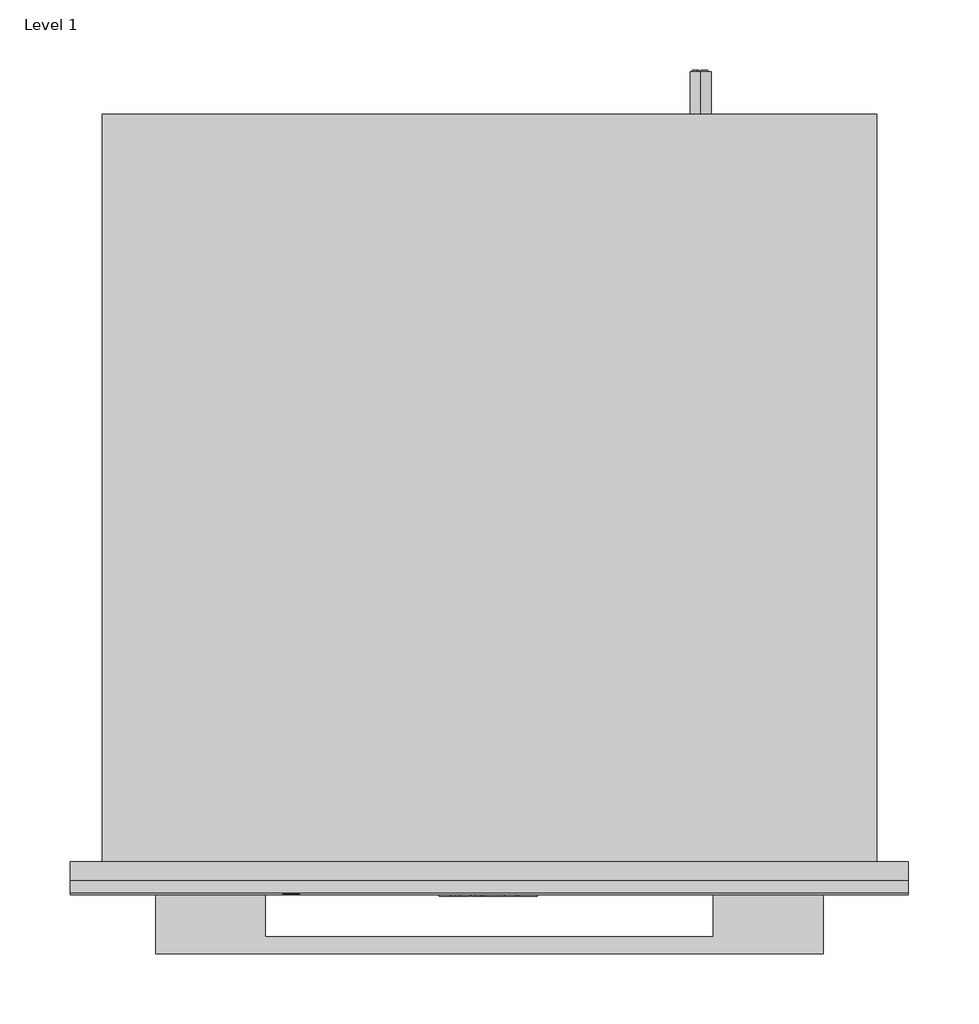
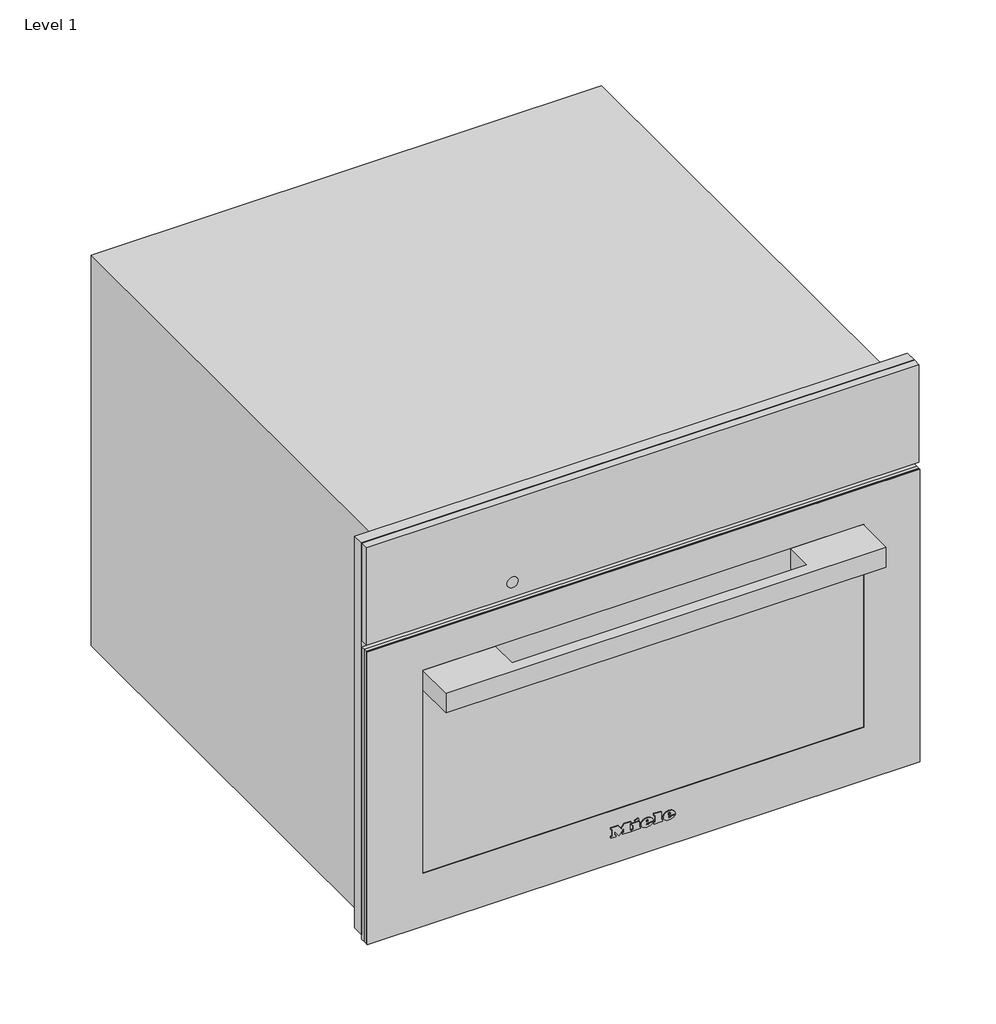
# One storey: 1 proxy.
"""IFC4 building model written with IfcOpenShell, lengths in millimetres."""

import ifcopenshell
import ifcopenshell.guid

model = None  # the IFC model being written
_history = None  # IfcOwnerHistory: only IFC2X3 demands one
_inside = {}  # id of a spatial element -> (the spatial element, [elements in it])
_under = {}  # id of a project, library or spatial element -> (it, [spatial elements below it])
_declared = {}  # id of a project -> (the project, [libraries it declares])
_typed = {}  # id of a type object -> (the type object, [elements of that type])
_made_of = {}  # id of a material, layer set ... -> (it, [elements and type objects made of it])


def new_model(schema):
    """Start an empty IFC model of exactly this schema.

    Asked for "IFC4X3", IfcOpenShell would pick the latest addendum, in which some entities
    have other attributes; the version numbers below select the first issue.
    IFC2X3 requires an IfcOwnerHistory on every rooted entity: one is made here for all.
    """
    global model, _history
    if schema == "IFC4X3":
        model = ifcopenshell.file(schema_version=(4, 3, 0, 0))
    else:
        model = ifcopenshell.file(schema=schema)
    _inside.clear()
    _under.clear()
    _declared.clear()
    _typed.clear()
    _made_of.clear()
    _history = None
    if model.schema == "IFC2X3":
        org = make("IfcOrganization", Name="unknown")
        user = make(
            "IfcPersonAndOrganization",
            ThePerson=make("IfcPerson", FamilyName="unknown"),
            TheOrganization=org,
        )
        app = make(
            "IfcApplication",
            ApplicationDeveloper=org,
            Version="unknown",
            ApplicationFullName="unknown",
            ApplicationIdentifier="unknown",
        )
        _history = make(
            "IfcOwnerHistory",
            OwningUser=user,
            OwningApplication=app,
            ChangeAction="ADDED",
            CreationDate=0,
        )
    return model


def make(cls, **values):
    """One entity of the class cls with the attributes given. An attribute that is None is left unset."""
    return model.create_entity(
        cls, **{name: value for name, value in values.items() if value is not None}
    )


def rooted(cls, **values):
    """An entity with a GlobalId (a new one), such as an element, a storey or a relation."""
    return make(cls, GlobalId=ifcopenshell.guid.new(), OwnerHistory=_history, **values)


def si_unit(unit_type, name, prefix=None):
    """IfcSIUnit, for example si_unit("LENGTHUNIT", "METRE", prefix="MILLI")."""
    return make("IfcSIUnit", UnitType=unit_type, Prefix=prefix, Name=name)


def assignment(units):
    """IfcUnitAssignment: the units of a project."""
    return None if units is None else make("IfcUnitAssignment", Units=units)


def point(xyz):
    """IfcCartesianPoint."""
    return None if xyz is None else make("IfcCartesianPoint", Coordinates=xyz)


def direction(xyz):
    """IfcDirection."""
    return None if xyz is None else make("IfcDirection", DirectionRatios=xyz)


def frame(location, z_axis=None, x_axis=None):
    """IfcAxis2Placement3D, a coordinate frame: its origin and axes. An axis left out is left unset."""
    return make(
        "IfcAxis2Placement3D",
        Location=point(location),
        Axis=direction(z_axis),
        RefDirection=direction(x_axis),
    )


def frame_2d(location, x_axis=None):
    """IfcAxis2Placement2D, a coordinate frame in the plane: its origin and x axis."""
    return make(
        "IfcAxis2Placement2D", Location=point(location), RefDirection=direction(x_axis)
    )


def origin():
    """The frame at (0, 0, 0) with its axes left unset."""
    return frame((0.0, 0.0, 0.0))


def place(relative_to, where):
    """IfcLocalPlacement: puts the frame where relative to a parent placement (None: the world)."""
    return make(
        "IfcLocalPlacement", PlacementRelTo=relative_to, RelativePlacement=where
    )


def context(
    kind, dimensions, precision=None, world=None, true_north=None, identifier=None
):
    """IfcGeometricRepresentationContext, for example the 3D "Model" context."""
    return make(
        "IfcGeometricRepresentationContext",
        ContextIdentifier=identifier,
        ContextType=kind,
        CoordinateSpaceDimension=dimensions,
        Precision=precision,
        WorldCoordinateSystem=world,
        TrueNorth=true_north,
    )


def project(units=None, contexts=None):
    """IfcProject with its units and contexts."""
    return rooted(
        "IfcProject",
        Name="project",
        RepresentationContexts=contexts,
        UnitsInContext=assignment(units),
    )


def spatial(cls, under=None, at=None, **own):
    """A site, building, storey or space (cls), placed at a placement, below another one or the project."""
    s = rooted(cls, ObjectPlacement=at, **own)
    if under is not None:
        _under.setdefault(under.id(), (under, []))[1].append(s)
    return s


def polyline(points):
    """IfcPolyline through the points."""
    return make("IfcPolyline", Points=[point(p) for p in points])


def circle_curve(where, radius):
    """IfcCircle in the frame where."""
    return make("IfcCircle", Position=where, Radius=radius)


def ellipse_curve(where, semi_axis1, semi_axis2):
    """IfcEllipse in the frame where."""
    return make(
        "IfcEllipse", Position=where, SemiAxis1=semi_axis1, SemiAxis2=semi_axis2
    )


def trimmed(basis, trim1, trim2, sense, master):
    """IfcTrimmedCurve: the piece of a basis curve between two trims."""
    return make(
        "IfcTrimmedCurve",
        BasisCurve=basis,
        Trim1=trim1,
        Trim2=trim2,
        SenseAgreement=sense,
        MasterRepresentation=master,
    )


def segment(curve, same_sense, transition):
    """IfcCompositeCurveSegment."""
    return make(
        "IfcCompositeCurveSegment",
        Transition=transition,
        SameSense=same_sense,
        ParentCurve=curve,
    )


def composite_curve(segments, self_intersect=None):
    """IfcCompositeCurve: segments joined end to end."""
    return make("IfcCompositeCurve", Segments=segments, SelfIntersect=self_intersect)


def outline(outer, holes=None, kind="AREA"):
    """IfcArbitraryClosedProfileDef: a profile drawn as a closed curve; with holes, ...WithVoids."""
    if holes is None:
        return make("IfcArbitraryClosedProfileDef", ProfileType=kind, OuterCurve=outer)
    return make(
        "IfcArbitraryProfileDefWithVoids",
        ProfileType=kind,
        OuterCurve=outer,
        InnerCurves=holes,
    )


def extrude(swept, where, along, depth):
    """IfcExtrudedAreaSolid: the profile swept, set in the frame where, extruded along a direction by depth."""
    return make(
        "IfcExtrudedAreaSolid",
        SweptArea=swept,
        Position=where,
        ExtrudedDirection=direction(along),
        Depth=depth,
    )


def faces_of(points, faces, orient=None, outer=None):
    """IfcFace entities. A face is a list of loops; a loop is a list of indices into points, from 0.

    orient and outer hold one flag for each loop. By default every Orientation is true, the
    first loop of a face is its IfcFaceOuterBound and the others are IfcFaceBound.
    """
    made = []
    for i, loops in enumerate(faces):
        bounds = []
        for j, loop in enumerate(loops):
            is_outer = j == 0 if outer is None else outer[i][j]
            bounds.append(
                make(
                    "IfcFaceOuterBound" if is_outer else "IfcFaceBound",
                    Bound=make("IfcPolyLoop", Polygon=[points[k] for k in loop]),
                    Orientation=True if orient is None else orient[i][j],
                )
            )
        made.append(make("IfcFace", Bounds=bounds))
    return made


def faceted_brep(points, faces, orient=None, outer=None, voids=None):
    """IfcFacetedBrep: a solid bounded by flat faces; with voids (closed shells), ...WithVoids."""
    shared = [point(p) for p in points]
    hull = make("IfcClosedShell", CfsFaces=faces_of(shared, faces, orient, outer))
    if voids is None:
        return make("IfcFacetedBrep", Outer=hull)
    return make(
        "IfcFacetedBrepWithVoids",
        Outer=hull,
        Voids=[
            make(cls, CfsFaces=faces_of(shared, fs, o, b)) for cls, fs, o, b in voids
        ],
    )


def shape(context_of_items, identifier, shape_type, items):
    """IfcShapeRepresentation: the items that make up one representation, for example the "Body"."""
    return make(
        "IfcShapeRepresentation",
        ContextOfItems=context_of_items,
        RepresentationIdentifier=identifier,
        RepresentationType=shape_type,
        Items=items,
    )


def source(mapping_origin, context_of_items, identifier, shape_type, items):
    """IfcRepresentationMap: a shape defined once, which mapped items show again and again."""
    return make(
        "IfcRepresentationMap",
        MappingOrigin=mapping_origin,
        MappedRepresentation=shape(context_of_items, identifier, shape_type, items),
    )


def transform(
    local_origin,
    x_axis=None,
    y_axis=None,
    z_axis=None,
    scale=None,
    scale2=None,
    scale3=None,
    uniform=True,
):
    """IfcCartesianTransformationOperator3D, or its non-uniform kind. x_axis, y_axis, z_axis: its Axis1, 2, 3."""
    if uniform:
        return make(
            "IfcCartesianTransformationOperator3D",
            Axis1=direction(x_axis),
            Axis2=direction(y_axis),
            LocalOrigin=point(local_origin),
            Scale=scale,
            Axis3=direction(z_axis),
        )
    return make(
        "IfcCartesianTransformationOperator3DnonUniform",
        Axis1=direction(x_axis),
        Axis2=direction(y_axis),
        LocalOrigin=point(local_origin),
        Scale=scale,
        Axis3=direction(z_axis),
        Scale2=scale2,
        Scale3=scale3,
    )


def mapped(mapping_source, mapping_target):
    """IfcMappedItem: shows the shape of a source again, moved by a transform."""
    return make(
        "IfcMappedItem", MappingSource=mapping_source, MappingTarget=mapping_target
    )


def made_of(thing, what):
    """Note that an element or type object is made of a material, layer set ...; save() writes the relation."""
    if what is not None:
        _made_of.setdefault(what.id(), (what, []))[1].append(thing)
    return thing


def element(
    cls,
    number,
    at=None,
    inside=None,
    cuts=None,
    type_object=None,
    material=None,
    context=None,
    identifier="Body",
    shape_type=None,
    held_by="IfcProductDefinitionShape",
    body=None,
    shapes=None,
    **own,
):
    """One element of the class cls, such as IfcWall. Its Tag is "e" and its number.

    at: its placement. inside: the storey or other place that contains it. cuts: it is an
    opening in that element (IfcRelVoidsElement). A single representation is given by context,
    identifier, shape_type and body (its items); several are given by shapes. held_by: the class
    of the entity that holds the representations. save() writes the other relations.
    """
    e = rooted(cls, Tag="e%d" % number, ObjectPlacement=at, **own)
    if body is not None:
        shapes = [shape(context, identifier, shape_type, body)]
    if shapes is not None:
        e.Representation = make(held_by, Representations=shapes)
    if inside is not None:
        _inside.setdefault(inside.id(), (inside, []))[1].append(e)
    if cuts is not None:
        rooted(
            "IfcRelVoidsElement", RelatingBuildingElement=cuts, RelatedOpeningElement=e
        )
    if type_object is not None:
        _typed.setdefault(type_object.id(), (type_object, []))[1].append(e)
    return made_of(e, material)


def aggregate(whole, parts):
    """IfcRelAggregates: a whole, such as a stair, and the parts it consists of."""
    return rooted("IfcRelAggregates", RelatingObject=whole, RelatedObjects=parts)


def save(model, path):
    """Write the relations noted so far, then the file.

    IfcRelAggregates (storeys below a building ...), IfcRelContainedInSpatialStructure (elements
    in a storey), IfcRelDefinesByType, IfcRelAssociatesMaterial and IfcRelDeclares: one each for
    every whole, place, type object, material and project.
    """
    for whole, parts in _under.values():
        aggregate(whole, parts)
    for where, things in _inside.values():
        rooted(
            "IfcRelContainedInSpatialStructure",
            RelatedElements=things,
            RelatingStructure=where,
        )
    for kind, things in _typed.values():
        rooted("IfcRelDefinesByType", RelatedObjects=things, RelatingType=kind)
    for what, things in _made_of.values():
        rooted("IfcRelAssociatesMaterial", RelatedObjects=things, RelatingMaterial=what)
    for by, libraries in _declared.values():
        rooted("IfcRelDeclares", RelatingContext=by, RelatedDefinitions=libraries)
    model.write(path)


def plane_surface(at):
    """IfcPlane: the flat surface through the origin of the frame at, square to its z axis."""
    return make("IfcPlane", Position=at)


def cylinder_surface(at, radius):
    """IfcCylindricalSurface: all points at the distance radius from the z axis of the frame at."""
    return make("IfcCylindricalSurface", Position=at, Radius=radius)


def revolved_surface(curve, axis_point, axis_direction):
    """IfcSurfaceOfRevolution: the curve turned about the line through axis_point along axis_direction."""
    return make(
        "IfcSurfaceOfRevolution",
        SweptCurve=make("IfcArbitraryOpenProfileDef", ProfileType="CURVE", Curve=curve),
        AxisPosition=make("IfcAxis1Placement", Location=point(axis_point), Axis=direction(axis_direction)),
    )


def extruded_surface(curve, direction_of_extrusion, depth):
    """IfcSurfaceOfLinearExtrusion: the curve pushed along a direction by depth."""
    return make(
        "IfcSurfaceOfLinearExtrusion",
        SweptCurve=make("IfcArbitraryOpenProfileDef", ProfileType="CURVE", Curve=curve),
        ExtrudedDirection=direction(direction_of_extrusion),
        Depth=depth,
    )


def advanced_brep(points, edges, surfaces, faces):
    """IfcAdvancedBrep: a solid bounded by faces that lie on surfaces and meet in shared edges.

    An edge is (start, end): straight between two places in points (the first is 0);
    or (start, end, curve); or (start, end, curve, False) where it runs against its curve.
    A face is (place in surfaces, loops), or (place, loops, False) where it looks against
    its surface's normal. A loop lists edges by number (the first is 1), with a minus sign
    where the edge is run from its end to its start. The first loop is the outer one.
    """
    corners = [point(p) for p in points]
    vertices = [make("IfcVertexPoint", VertexGeometry=c) for c in corners]
    made = []
    for start, end, *more in edges:
        made.append(
            make(
                "IfcEdgeCurve",
                EdgeStart=vertices[start],
                EdgeEnd=vertices[end],
                EdgeGeometry=more[0] if more else make("IfcPolyline", Points=[corners[start], corners[end]]),
                SameSense=more[1] if len(more) > 1 else True,
            )
        )
    hull = []
    for where, loops, *sense in faces:
        bounds = []
        for j, loop in enumerate(loops):
            ring = [make("IfcOrientedEdge", EdgeElement=made[abs(k) - 1], Orientation=k > 0) for k in loop]
            bounds.append(
                make(
                    "IfcFaceOuterBound" if j == 0 else "IfcFaceBound",
                    Bound=make("IfcEdgeLoop", EdgeList=ring),
                    Orientation=True,
                )
            )
        hull.append(make("IfcAdvancedFace", Bounds=bounds, FaceSurface=surfaces[where], SameSense=sense[0] if sense else True))
    return make("IfcAdvancedBrep", Outer=make("IfcClosedShell", CfsFaces=hull))


def specialty_equipment_3f3d7ecd(model_context):
    return source(origin(), model_context, "Body", "SolidModel", [
        extrude(outline(polyline([(455.0, 297.5), (455.0, -297.5), (9.0, -297.5), (9.0, -272.5), (344.0, -272.5), (344.0, 272.5), (9.0, 272.5), (9.0, 297.5), (455.0, 297.5)])), frame((0.0, -13.0, 0.0), z_axis=(0.0, 1.0, 0.0), x_axis=(0.0, 0.0, 1.0)), (0.0, 0.0, 1.0), 13.0),
        advanced_brep(
        [(150.0, 561.0, 410.5), (150.0, 561.0, 395.5), (144.4098301, 561.0, 398.0), (148.5, 561.0, 398.0), (148.5, 561.0, 408.0), (147.4955303, 561.0, 408.0), (147.4955303, 561.0, 399.0), (144.0315043, 561.0, 399.0), (144.0315043, 561.0, 398.4582978), (155.0, 561.0, 398.0), (155.0, 561.0, 408.0), (150.0, 561.0, 408.0), (150.0, 561.0, 407.0), (154.0, 561.0, 407.0), (154.0, 561.0, 403.5), (151.0, 561.0, 403.5), (151.0, 561.0, 402.5), (154.0, 561.0, 402.5), (154.0, 561.0, 399.0), (150.0, 561.0, 399.0), (150.0, 561.0, 398.0), (150.0, 531.0, 395.5), (150.0, 531.0, 410.5), (155.0, 562.0, 408.0), (155.0, 562.0, 398.0), (150.0, 562.0, 398.0), (150.0, 562.0, 399.0), (154.0, 562.0, 399.0), (154.0, 562.0, 402.5), (151.0, 562.0, 402.5), (151.0, 562.0, 403.5), (154.0, 562.0, 403.5), (154.0, 562.0, 407.0), (150.0, 562.0, 407.0), (150.0, 562.0, 408.0), (148.5, 562.0, 398.0), (144.0315043, 562.0, 398.0), (144.0315043, 562.0, 399.0), (147.4955303, 562.0, 399.0), (147.4955303, 562.0, 408.0), (148.5, 562.0, 408.0), (144.0315043, 561.0, 398.0)],
        [
            (0, 1, circle_curve(frame((150.0, 561.0, 403.0), z_axis=(0.0, 1.0, 0.0), x_axis=(0.0, 0.0, 1.0)), 7.5)),
            (1, 2, circle_curve(frame((150.0, 561.0, 403.0), z_axis=(0.0, 1.0, 0.0), x_axis=(0.0, 0.0, 1.0)), 7.5)),
            (2, 3),
            (3, 4),
            (4, 5),
            (5, 6),
            (6, 7),
            (7, 8),
            (8, 0, circle_curve(frame((150.0, 561.0, 403.0), z_axis=(0.0, 1.0, 0.0), x_axis=(0.0, 0.0, 1.0)), 7.5)),
            (9, 10),
            (10, 11),
            (11, 12),
            (12, 13),
            (13, 14),
            (14, 15),
            (15, 16),
            (16, 17),
            (17, 18),
            (18, 19),
            (19, 20),
            (20, 9),
            (21, 22, circle_curve(frame((150.0, 531.0, 403.0), z_axis=(0.0, -1.0, 0.0), x_axis=(0.0, 0.0, 1.0)), 7.5)),
            (22, 21, circle_curve(frame((150.0, 531.0, 403.0), z_axis=(0.0, -1.0, 0.0), x_axis=(0.0, 0.0, 1.0)), 7.5)),
            (0, 22),
            (21, 1),
            (8, 2, circle_curve(frame((150.0, 561.0, 403.0), z_axis=(0.0, -1.0, 0.0), x_axis=(0.0, 0.0, 1.0)), 7.5)),
            (23, 24),
            (24, 25),
            (25, 26),
            (26, 27),
            (27, 28),
            (28, 29),
            (29, 30),
            (30, 31),
            (31, 32),
            (32, 33),
            (33, 34),
            (34, 23),
            (35, 36),
            (36, 37),
            (37, 38),
            (38, 39),
            (39, 40),
            (40, 35),
            (8, 41),
            (41, 2),
            (23, 10),
            (9, 24),
            (20, 25),
            (19, 26),
            (18, 27),
            (17, 28),
            (16, 29),
            (15, 30),
            (14, 31),
            (13, 32),
            (12, 33),
            (11, 34),
            (35, 3),
            (41, 36),
            (7, 37),
            (6, 38),
            (5, 39),
            (4, 40),
        ],
        [
            plane_surface(frame((150.0, 561.0, 410.5), z_axis=(0.0, 1.0, 0.0), x_axis=(1.0, 0.0, 0.0))),
            plane_surface(frame((150.0, 531.0, 410.5), z_axis=(0.0, -1.0, 0.0), x_axis=(-1.0, 0.0, 0.0))),
            cylinder_surface(frame((150.0, 561.0, 403.0), z_axis=(0.0, -1.0, 0.0), x_axis=(0.0, 0.0, 1.0)), 7.5),
            plane_surface(frame((155.0, 562.0, 408.0), z_axis=(0.0, 1.0, 0.0), x_axis=(0.0, 0.0, -1.0))),
            plane_surface(frame((155.0, 561.0, 408.0), z_axis=(0.0, -1.0, 0.0), x_axis=(0.0, 0.0, 1.0))),
            plane_surface(frame((155.0, 562.0, 408.0), z_axis=(1.0, 0.0, 0.0), x_axis=(0.0, -1.0, 0.0))),
            plane_surface(frame((155.0, 562.0, 398.0), z_axis=(0.0, 0.0, -1.0), x_axis=(0.0, -1.0, 0.0))),
            plane_surface(frame((150.0, 562.0, 398.0), z_axis=(-1.0, 0.0, 0.0), x_axis=(0.0, -1.0, 0.0))),
            plane_surface(frame((150.0, 562.0, 399.0), z_axis=(0.0, 0.0, 1.0), x_axis=(0.0, -1.0, 0.0))),
            plane_surface(frame((154.0, 562.0, 399.0), z_axis=(-1.0, 0.0, 0.0), x_axis=(0.0, -1.0, 0.0))),
            plane_surface(frame((154.0, 562.0, 402.5), z_axis=(0.0, 0.0, -1.0), x_axis=(0.0, -1.0, 0.0))),
            plane_surface(frame((151.0, 562.0, 402.5), z_axis=(-1.0, 0.0, 0.0), x_axis=(0.0, -1.0, 0.0))),
            plane_surface(frame((151.0, 562.0, 403.5), z_axis=(0.0, 0.0, 1.0), x_axis=(0.0, -1.0, 0.0))),
            plane_surface(frame((154.0, 562.0, 403.5), z_axis=(-1.0, 0.0, 0.0), x_axis=(0.0, -1.0, 0.0))),
            plane_surface(frame((154.0, 562.0, 407.0), z_axis=(0.0, 0.0, -1.0), x_axis=(0.0, -1.0, 0.0))),
            plane_surface(frame((150.0, 562.0, 407.0), z_axis=(-1.0, 0.0, 0.0), x_axis=(0.0, -1.0, 0.0))),
            plane_surface(frame((150.0, 562.0, 408.0), z_axis=(0.0, 0.0, 1.0), x_axis=(0.0, -1.0, 0.0))),
            plane_surface(frame((148.5, 562.0, 398.0), z_axis=(0.0, 0.0, -1.0), x_axis=(0.0, -1.0, 0.0))),
            plane_surface(frame((144.0315043, 562.0, 398.0), z_axis=(-1.0, 0.0, 0.0), x_axis=(0.0, -1.0, 0.0))),
            plane_surface(frame((144.0315043, 562.0, 399.0), z_axis=(0.0, 0.0, 1.0), x_axis=(0.0, -1.0, 0.0))),
            plane_surface(frame((147.4955303, 562.0, 399.0), z_axis=(-1.0, 0.0, 0.0), x_axis=(0.0, -1.0, 0.0))),
            plane_surface(frame((147.4955303, 562.0, 408.0), z_axis=(0.0, 0.0, 1.0), x_axis=(0.0, -1.0, 0.0))),
            plane_surface(frame((148.5, 562.0, 408.0), z_axis=(1.0, 0.0, 0.0), x_axis=(0.0, -1.0, 0.0))),
        ],
        [
            (0, [[1, 2, 3, 4, 5, 6, 7, 8, 9], [10, 11, 12, 13, 14, 15, 16, 17, 18, 19, 20, 21]]),
            (1, [[22, 23]]),
            (2, [[-1, 24, -22, 25]]),
            (2, [[-23, -24, -9, 26, -2, -25]]),
            (3, [[27, 28, 29, 30, 31, 32, 33, 34, 35, 36, 37, 38]]),
            (3, [[39, 40, 41, 42, 43, 44]]),
            (4, [[45, 46, -26]]),
            (5, [[-27, 47, -10, 48]]),
            (6, [[-28, -48, -21, 49]]),
            (7, [[-29, -49, -20, 50]]),
            (8, [[-30, -50, -19, 51]]),
            (9, [[-31, -51, -18, 52]]),
            (10, [[-32, -52, -17, 53]]),
            (11, [[-33, -53, -16, 54]]),
            (12, [[-34, -54, -15, 55]]),
            (13, [[-35, -55, -14, 56]]),
            (14, [[-36, -56, -13, 57]]),
            (15, [[-37, -57, -12, 58]]),
            (16, [[-38, -58, -11, -47]]),
            (17, [[-39, 59, -3, -46, 60]]),
            (18, [[-40, -60, -45, -8, 61]]),
            (19, [[-41, -61, -7, 62]]),
            (20, [[-42, -62, -6, 63]]),
            (21, [[-43, -63, -5, 64]]),
            (22, [[-44, -64, -4, -59]]),
        ],
    ),
        faceted_brep([(275.0, 531.0, 445.0), (275.0, 531.0, 0.0), (-275.0, 531.0, 0.0), (-275.0, 531.0, 445.0), (275.0, 0.0, 445.0), (-275.0, 0.0, 445.0), (-275.0, 0.0, 0.0), (275.0, 0.0, 0.0), (-272.5, 0.0, 344.0), (272.5, 0.0, 344.0), (272.5, 0.0, 8.0), (-272.5, 0.0, 8.0), (272.5, 12.0, 344.0), (-272.5, 12.0, 344.0), (-272.5, 12.0, 8.0), (272.5, 12.0, 8.0), (161.0, 12.0, 286.0), (161.0, 12.0, 58.0), (-220.0, 12.0, 58.0), (-220.0, 12.0, 286.0), (161.0, 419.0, 286.0), (-220.0, 419.0, 286.0), (-220.0, 419.0, 58.0), (161.0, 419.0, 58.0)], [[[0, 1, 2, 3]], [[4, 5, 6, 7], [8, 9, 10, 11]], [[0, 3, 5, 4]], [[3, 2, 6, 5]], [[2, 1, 7, 6]], [[1, 0, 4, 7]], [[12, 13, 14, 15], [16, 17, 18, 19]], [[13, 12, 9, 8]], [[14, 13, 8, 11]], [[15, 14, 11, 10]], [[12, 15, 10, 9]], [[20, 21, 22, 23]], [[20, 23, 17, 16]], [[23, 22, 18, 17]], [[22, 21, 19, 18]], [[21, 20, 16, 19]]]),
        advanced_brep(
        [(26.2998, -24.3, 36.7018), (26.2998, -24.3, 37.8532), (33.9264, -24.3, 37.8532), (20.6568, -24.3, 37.8532), (23.7918, -24.3, 34.0), (33.7326, -24.3, 36.7018), (30.2898, -24.3, 36.7018), (27.5766, -24.3, 35.425), (26.2998, -24.3, 39.3124), (26.2998, -24.3, 40.555), (28.2492, -24.3, 40.555), (28.2492, -24.3, 39.3124), (26.2998, -23.3, 36.7018), (27.5766, -23.3, 35.425), (30.2898, -23.3, 36.7018), (33.7326, -23.3, 36.7018), (23.7918, -23.3, 34.0), (20.6568, -23.3, 37.8532), (33.9264, -23.3, 37.8532), (26.2998, -23.3, 37.8532), (26.2998, -23.3, 39.3124), (28.2492, -23.3, 39.3124), (28.2492, -23.3, 40.555), (26.2998, -23.3, 40.555)],
        [
            (0, 1),
            (1, 2),
            (2, 3, ellipse_curve(frame((27.2916, -24.3, 37.8532), z_axis=(0.0, -1.0, 0.0), x_axis=(-1.0, 0.0, 0.0)), 6.6348, 5.4834)),
            (3, 4, circle_curve(frame((25.0686622, -24.3, 38.2408), z_axis=(0.0, -1.0, 0.0), x_axis=(0.0, 0.0, -1.0)), 4.4288556)),
            (4, 5, circle_curve(frame((27.1587808, -24.3, 41.2504), z_axis=(0.0, -1.0, 0.0), x_axis=(0.0, 0.0, -1.0)), 7.9940516)),
            (5, 6),
            (6, 7, circle_curve(frame((28.1338588, -24.3, 37.762), z_axis=(0.0, 1.0, 0.0), x_axis=(0.0, 0.0, -1.0)), 2.4025208)),
            (7, 0, circle_curve(frame((27.5766, -24.3, 36.7018), z_axis=(0.0, 1.0, 0.0), x_axis=(0.0, 0.0, -1.0)), 1.2768)),
            (8, 9),
            (9, 10, circle_curve(frame((27.2745, -24.3, 40.555), z_axis=(0.0, 1.0, 0.0), x_axis=(0.0, 0.0, -1.0)), 0.9747)),
            (10, 11),
            (11, 8),
            (12, 13, circle_curve(frame((27.5766, -23.3, 36.7018), z_axis=(0.0, -1.0, 0.0), x_axis=(0.0, 0.0, -1.0)), 1.2768)),
            (13, 14, circle_curve(frame((28.1338588, -23.3, 37.762), z_axis=(0.0, -1.0, 0.0), x_axis=(0.0, 0.0, -1.0)), 2.4025208)),
            (14, 15),
            (15, 16, circle_curve(frame((27.1587808, -23.3, 41.2504), z_axis=(0.0, 1.0, 0.0), x_axis=(0.0, 0.0, -1.0)), 7.9940516)),
            (16, 17, circle_curve(frame((25.0686622, -23.3, 38.2408), z_axis=(0.0, 1.0, 0.0), x_axis=(0.0, 0.0, -1.0)), 4.4288556)),
            (17, 18, ellipse_curve(frame((27.2916, -23.3, 37.8532), z_axis=(0.0, 1.0, 0.0), x_axis=(-1.0, 0.0, 0.0)), 6.6348, 5.4834)),
            (18, 19),
            (19, 12),
            (20, 21),
            (21, 22),
            (22, 23, circle_curve(frame((27.2745, -23.3, 40.555), z_axis=(0.0, -1.0, 0.0), x_axis=(0.0, 0.0, -1.0)), 0.9747)),
            (23, 20),
            (0, 12),
            (19, 1),
            (18, 2),
            (5, 15),
            (14, 6),
            (17, 3),
            (13, 7),
            (16, 4),
            (8, 20),
            (23, 9),
            (22, 10),
            (21, 11),
        ],
        [
            plane_surface(frame((26.2998, -24.3, 37.8532), z_axis=(0.0, -1.0, 0.0), x_axis=(0.0, 0.0, 1.0))),
            plane_surface(frame((26.2998, -23.3, 37.8532), z_axis=(0.0, 1.0, 0.0), x_axis=(0.0, 0.0, -1.0))),
            plane_surface(frame((26.2998, -24.3, 36.7018), z_axis=(1.0, 0.0, 0.0), x_axis=(0.0, 1.0, 0.0))),
            plane_surface(frame((26.2998, -24.3, 37.8532), z_axis=(0.0, 0.0, -1.0), x_axis=(0.0, 1.0, 0.0))),
            plane_surface(frame((33.7326, -24.3, 36.7018), z_axis=(0.0, 0.0, 1.0), x_axis=(0.0, 1.0, 0.0))),
            extruded_surface(trimmed(ellipse_curve(frame((27.2916, -22.3, 37.8532), z_axis=(0.0, -1.0, 0.0), x_axis=(-1.0, 0.0, 0.0)), 6.6348, 5.4834), [point((33.9264, -22.3, 37.8532))], [point((20.6568, -22.3, 37.8532))], True, "CARTESIAN"), (0.0, -1.0, 0.0), 1.0),
            revolved_surface(polyline([(28.1338588, -23.3, 35.3594792), (28.1338588, -24.3, 35.3594792)]), (28.1338588, -23.3, 37.762), (0.0, 1.0, 0.0)),
            revolved_surface(polyline([(27.5766, -23.3, 35.425), (27.5766, -24.3, 35.425)]), (27.5766, -23.3, 36.7018), (0.0, 1.0, 0.0)),
            cylinder_surface(frame((25.0686622, -23.3, 38.2408), z_axis=(0.0, -1.0, 0.0), x_axis=(0.0, 0.0, -1.0)), 4.4288556),
            cylinder_surface(frame((27.1587808, -23.3, 41.2504), z_axis=(0.0, -1.0, 0.0), x_axis=(0.0, 0.0, -1.0)), 7.9940516),
            plane_surface(frame((26.2998, -24.3, 39.3124), z_axis=(1.0, 0.0, 0.0), x_axis=(0.0, 1.0, 0.0))),
            revolved_surface(polyline([(27.2745, -23.3, 39.5803), (27.2745, -24.3, 39.5803)]), (27.2745, -23.3, 40.555), (0.0, 1.0, 0.0)),
            plane_surface(frame((28.2492, -24.3, 40.555), z_axis=(-1.0, 0.0, 0.0), x_axis=(0.0, 1.0, 0.0))),
            plane_surface(frame((28.2492, -24.3, 39.3124), z_axis=(0.0, 0.0, 1.0), x_axis=(0.0, 1.0, 0.0))),
        ],
        [
            (0, [[1, 2, 3, 4, 5, 6, 7, 8], [9, 10, 11, 12]]),
            (1, [[13, 14, 15, 16, 17, 18, 19, 20], [21, 22, 23, 24]]),
            (2, [[-1, 25, -20, 26]]),
            (3, [[-2, -26, -19, 27]]),
            (4, [[-6, 28, -15, 29]]),
            (5, [[-3, -27, -18, 30]]),
            (6, [[-7, -29, -14, 31]]),
            (7, [[-8, -31, -13, -25]]),
            (8, [[-4, -30, -17, 32]]),
            (9, [[-5, -32, -16, -28]]),
            (10, [[-9, 33, -24, 34]]),
            (11, [[-10, -34, -23, 35]]),
            (12, [[-11, -35, -22, 36]]),
            (13, [[-12, -36, -21, -33]]),
        ],
    ),
        advanced_brep(
        [(2.508, -24.3, 36.7018), (2.508, -24.3, 37.8532), (10.1346, -24.3, 37.8532), (-3.135, -24.3, 37.8532), (0.0, -24.3, 34.0), (9.9408, -24.3, 36.7018), (6.498, -24.3, 36.7018), (3.7848, -24.3, 35.425), (2.508, -24.3, 39.3124), (2.508, -24.3, 40.555), (4.4574, -24.3, 40.555), (4.4574, -24.3, 39.3124), (2.508, -23.3, 36.7018), (3.7848, -23.3, 35.425), (6.498, -23.3, 36.7018), (9.9408, -23.3, 36.7018), (0.0, -23.3, 34.0), (-3.135, -23.3, 37.8532), (10.1346, -23.3, 37.8532), (2.508, -23.3, 37.8532), (2.508, -23.3, 39.3124), (4.4574, -23.3, 39.3124), (4.4574, -23.3, 40.555), (2.508, -23.3, 40.555)],
        [
            (0, 1),
            (1, 2),
            (2, 3, ellipse_curve(frame((3.4998, -24.3, 37.8532), z_axis=(0.0, -1.0, 0.0), x_axis=(-1.0, 0.0, 0.0)), 6.6348, 5.4834)),
            (3, 4, circle_curve(frame((1.2768622, -24.3, 38.2408), z_axis=(0.0, -1.0, 0.0), x_axis=(0.0, 0.0, -1.0)), 4.4288556)),
            (4, 5, circle_curve(frame((3.3669808, -24.3, 41.2504), z_axis=(0.0, -1.0, 0.0), x_axis=(0.0, 0.0, -1.0)), 7.9940516)),
            (5, 6),
            (6, 7, circle_curve(frame((4.3420588, -24.3, 37.762), z_axis=(0.0, 1.0, 0.0), x_axis=(0.0, 0.0, -1.0)), 2.4025208)),
            (7, 0, circle_curve(frame((3.7848, -24.3, 36.7018), z_axis=(0.0, 1.0, 0.0), x_axis=(0.0, 0.0, -1.0)), 1.2768)),
            (8, 9),
            (9, 10, circle_curve(frame((3.4827, -24.3, 40.555), z_axis=(0.0, 1.0, 0.0), x_axis=(0.0, 0.0, -1.0)), 0.9747)),
            (10, 11),
            (11, 8),
            (12, 13, circle_curve(frame((3.7848, -23.3, 36.7018), z_axis=(0.0, -1.0, 0.0), x_axis=(0.0, 0.0, -1.0)), 1.2768)),
            (13, 14, circle_curve(frame((4.3420588, -23.3, 37.762), z_axis=(0.0, -1.0, 0.0), x_axis=(0.0, 0.0, -1.0)), 2.4025208)),
            (14, 15),
            (15, 16, circle_curve(frame((3.3669808, -23.3, 41.2504), z_axis=(0.0, 1.0, 0.0), x_axis=(0.0, 0.0, -1.0)), 7.9940516)),
            (16, 17, circle_curve(frame((1.2768622, -23.3, 38.2408), z_axis=(0.0, 1.0, 0.0), x_axis=(0.0, 0.0, -1.0)), 4.4288556)),
            (17, 18, ellipse_curve(frame((3.4998, -23.3, 37.8532), z_axis=(0.0, 1.0, 0.0), x_axis=(-1.0, 0.0, 0.0)), 6.6348, 5.4834)),
            (18, 19),
            (19, 12),
            (20, 21),
            (21, 22),
            (22, 23, circle_curve(frame((3.4827, -23.3, 40.555), z_axis=(0.0, -1.0, 0.0), x_axis=(0.0, 0.0, -1.0)), 0.9747)),
            (23, 20),
            (0, 12),
            (19, 1),
            (18, 2),
            (5, 15),
            (14, 6),
            (17, 3),
            (13, 7),
            (16, 4),
            (8, 20),
            (23, 9),
            (22, 10),
            (21, 11),
        ],
        [
            plane_surface(frame((2.508, -24.3, 37.8532), z_axis=(0.0, -1.0, 0.0), x_axis=(0.0, 0.0, 1.0))),
            plane_surface(frame((2.508, -23.3, 37.8532), z_axis=(0.0, 1.0, 0.0), x_axis=(0.0, 0.0, -1.0))),
            plane_surface(frame((2.508, -24.3, 36.7018), z_axis=(1.0, 0.0, 0.0), x_axis=(0.0, 1.0, 0.0))),
            plane_surface(frame((2.508, -24.3, 37.8532), z_axis=(0.0, 0.0, -1.0), x_axis=(0.0, 1.0, 0.0))),
            plane_surface(frame((9.9408, -24.3, 36.7018), z_axis=(0.0, 0.0, 1.0), x_axis=(0.0, 1.0, 0.0))),
            extruded_surface(trimmed(ellipse_curve(frame((3.4998, -22.3, 37.8532), z_axis=(0.0, -1.0, 0.0), x_axis=(-1.0, 0.0, 0.0)), 6.6348, 5.4834), [point((10.1346, -22.3, 37.8532))], [point((-3.135, -22.3, 37.8532))], True, "CARTESIAN"), (0.0, -1.0, 0.0), 1.0),
            revolved_surface(polyline([(4.3420588, -23.3, 35.3594792), (4.3420588, -24.3, 35.3594792)]), (4.3420588, -23.3, 37.762), (0.0, 1.0, 0.0)),
            revolved_surface(polyline([(3.7848, -23.3, 35.425), (3.7848, -24.3, 35.425)]), (3.7848, -23.3, 36.7018), (0.0, 1.0, 0.0)),
            cylinder_surface(frame((1.2768622, -23.3, 38.2408), z_axis=(0.0, -1.0, 0.0), x_axis=(0.0, 0.0, -1.0)), 4.4288556),
            cylinder_surface(frame((3.3669808, -23.3, 41.2504), z_axis=(0.0, -1.0, 0.0), x_axis=(0.0, 0.0, -1.0)), 7.9940516),
            plane_surface(frame((2.508, -24.3, 39.3124), z_axis=(1.0, 0.0, 0.0), x_axis=(0.0, 1.0, 0.0))),
            revolved_surface(polyline([(3.4827, -23.3, 39.5803), (3.4827, -24.3, 39.5803)]), (3.4827, -23.3, 40.555), (0.0, 1.0, 0.0)),
            plane_surface(frame((4.4574, -24.3, 40.555), z_axis=(-1.0, 0.0, 0.0), x_axis=(0.0, 1.0, 0.0))),
            plane_surface(frame((4.4574, -24.3, 39.3124), z_axis=(0.0, 0.0, 1.0), x_axis=(0.0, 1.0, 0.0))),
        ],
        [
            (0, [[1, 2, 3, 4, 5, 6, 7, 8], [9, 10, 11, 12]]),
            (1, [[13, 14, 15, 16, 17, 18, 19, 20], [21, 22, 23, 24]]),
            (2, [[-1, 25, -20, 26]]),
            (3, [[-2, -26, -19, 27]]),
            (4, [[-6, 28, -15, 29]]),
            (5, [[-3, -27, -18, 30]]),
            (6, [[-7, -29, -14, 31]]),
            (7, [[-8, -31, -13, -25]]),
            (8, [[-4, -30, -17, 32]]),
            (9, [[-5, -32, -16, -28]]),
            (10, [[-9, 33, -24, 34]]),
            (11, [[-10, -34, -23, 35]]),
            (12, [[-11, -35, -22, 36]]),
            (13, [[-12, -36, -21, -33]]),
        ],
    ),
        extrude(outline(polyline([(44.7274, -9.9522), (42.8806, -9.0858), (44.6818, -5.2212), (46.5286, -6.0762), (44.7274, -9.9522)])), frame((0.0, -24.3, 0.0), z_axis=(0.0, 1.0, 0.0), x_axis=(0.0, 0.0, 1.0)), (0.0, 0.0, 1.0), 1.0),
        extrude(outline(polyline([(42.6298, -12.768), (40.5892, -12.768), (40.5892, -11.4114), (35.9152, -11.4114), (35.9152, -12.768), (34.0, -12.768), (34.0, -3.7734), (35.9152, -3.7734), (35.9152, -5.0958), (42.6298, -5.0958), (42.6298, -12.768)])), frame((0.0, -24.3, 0.0), z_axis=(0.0, 1.0, 0.0), x_axis=(0.0, 0.0, 1.0)), (0.0, 0.0, 1.0), 1.0),
        extrude(outline(polyline([(43.5418, 10.773), (43.5418, 12.141), (35.9152, 12.141), (35.9152, 10.773), (34.0, 10.773), (34.0, 20.0184), (35.9152, 20.0184), (35.9152, 18.6162), (45.4, 18.6162), (45.4, 10.773), (43.5418, 10.773)])), frame((0.0, -24.3, 0.0), z_axis=(0.0, 1.0, 0.0), x_axis=(0.0, 0.0, 1.0)), (0.0, 0.0, 1.0), 1.0),
        extrude(outline(polyline([(43.5418, -35.4882), (43.5418, -34.1088), (35.9152, -34.1088), (35.9152, -35.4882), (34.0, -35.4882), (34.0, -30.4722), (35.9152, -30.4722), (35.9152, -31.8402), (40.7429247, -31.8402), (34.0, -26.7444), (40.9402223, -21.6258), (35.9152, -21.6258), (35.9152, -23.028), (34.0, -23.028), (34.0, -13.9308), (35.9152, -13.9308), (35.9152, -15.3786), (43.5418, -15.3786), (43.5418, -13.9308), (45.4, -13.9308), (45.4, -20.8734), (41.125, -24.2022), (45.4, -27.5424), (45.4, -35.4882), (43.5418, -35.4882)])), frame((0.0, -24.3, 0.0), z_axis=(0.0, 1.0, 0.0), x_axis=(0.0, 0.0, 1.0)), (0.0, 0.0, 1.0), 1.0),
        extrude(outline(polyline([(297.5, -22.0), (-297.5, -22.0), (-297.5, -13.0), (297.5, -13.0), (297.5, -22.0)])), frame((0.0, 0.0, 344.0), z_axis=(0.0, 0.0, 1.0), x_axis=(1.0, 0.0, 0.0)), (0.0, 0.0, 1.0), 111.0),
        extrude(outline(composite_curve([segment(trimmed(circle_curve(frame_2d((361.0, -140.5745637)), 6.0), [point((361.0, -146.5745637))], [point((361.0, -134.5745637))], False, "CARTESIAN"), True, "CONTINUOUS"), segment(trimmed(circle_curve(frame_2d((361.0, -140.5745637)), 6.0), [point((361.0, -134.5745637))], [point((361.0, -146.5745637))], False, "CARTESIAN"), True, "CONTINUOUS")], self_intersect=False)), frame((0.0, -22.5, 0.0), z_axis=(0.0, 1.0, 0.0), x_axis=(0.0, 0.0, 1.0)), (0.0, 0.0, 1.0), 1.0),
        extrude(outline(polyline([(297.5, -22.0), (-297.5, -22.0), (-297.5, -18.0), (297.5, -18.0), (297.5, -22.0)])), frame((0.0, 0.0, 4.0), z_axis=(0.0, 0.0, 1.0), x_axis=(1.0, 0.0, 0.0)), (0.0, 0.0, 1.0), 333.0),
        extrude(outline(polyline([(-159.0, -22.0), (-159.0, -53.0), (159.0, -53.0), (159.0, -22.0), (237.0, -22.0), (237.0, -65.0), (-237.0, -65.0), (-237.0, -22.0), (-159.0, -22.0)])), frame((0.0, 0.0, 272.0), z_axis=(0.0, 0.0, 1.0), x_axis=(1.0, 0.0, 0.0)), (0.0, 0.0, 1.0), 22.5),
        extrude(outline(polyline([(337.0, 297.5), (337.0, -297.5), (4.0, -297.5), (4.0, 297.5), (337.0, 297.5)]), holes=[polyline([(295.5, -237.5), (295.5, 237.5), (64.0, 237.5), (64.0, -237.5), (295.5, -237.5)])]), frame((0.0, -23.3, 0.0), z_axis=(0.0, 1.0, 0.0), x_axis=(0.0, 0.0, 1.0)), (0.0, 0.0, 1.0), 1.3),
        extrude(outline(polyline([(297.5, -18.0), (-297.5, -18.0), (-297.5, -13.0), (297.5, -13.0), (297.5, -18.0)])), frame((0.0, 0.0, 4.0), z_axis=(0.0, 0.0, 1.0), x_axis=(1.0, 0.0, 0.0)), (0.0, 0.0, 1.0), 333.0),
    ])


model = new_model("IFC4")

# Units and contexts
model_context = context("Model", 3, world=origin())
ifc_project = project(units=[si_unit("LENGTHUNIT", "METRE", prefix="MILLI")], contexts=[model_context])

# Site, building, storey
site = spatial("IfcSite", under=ifc_project)
building = spatial("IfcBuilding", under=site)
storey = spatial("IfcBuildingStorey", under=building, Name="Level 1", Elevation=0.0)

# Proxy
placement = place(None, origin())
specialty_equipment_shape = specialty_equipment_3f3d7ecd(model_context)
element("IfcBuildingElementProxy", 1, Name="11132830_RU_DGM7340_EDST-CLST : 23734044_RU_11132830_DGM7340_EDST-CLST", ObjectType="11132830_RU_DGM7340_EDST-CLST : 23734044_RU_11132830_DGM7340_EDST-CLST", at=placement, inside=storey, context=model_context, shape_type="MappedRepresentation", body=[
    mapped(specialty_equipment_shape, transform((0.0, 0.0, 0.0), x_axis=(1.0, 0.0, 0.0), y_axis=(0.0, 1.0, 0.0), z_axis=(0.0, 0.0, 1.0))),
])

save(model, "model.ifc")
